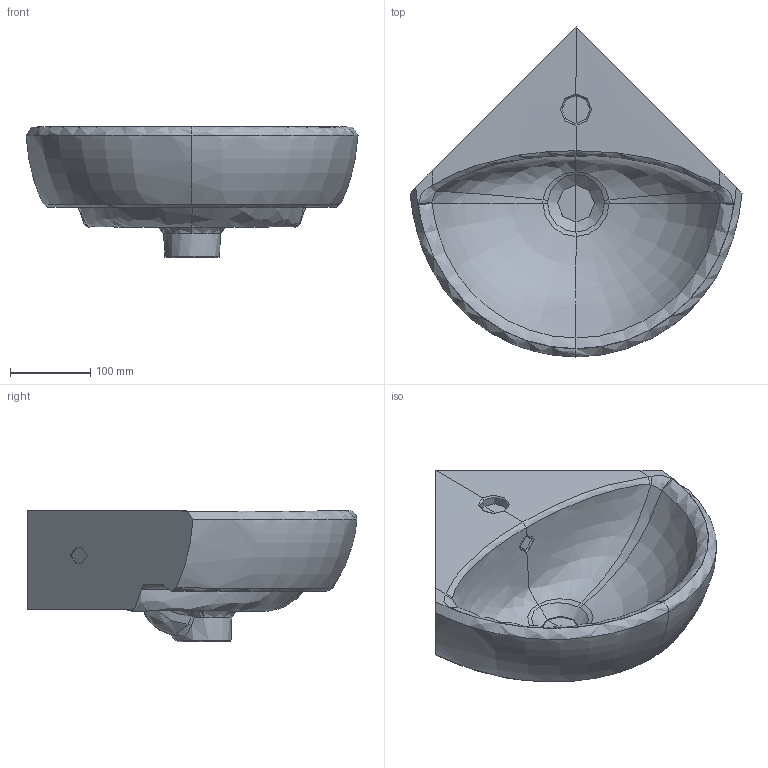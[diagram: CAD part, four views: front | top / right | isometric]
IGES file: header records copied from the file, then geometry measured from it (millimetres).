
Global section: file name: 500326; native system: Autodesk Inventor 2018; preprocessor: unknown; author: seihe2; date: 20200527.084604; units: millimetre
Bounding box: 414 x 411.5 x 164 mm (x, y, z)
Volume: 6825342.9 mm3; surface area: 398719.4 mm2
Topology: 1 solids, 1 shells, 126 faces, 327 edges, 203 vertices
Faces by surface type: bspline 126
